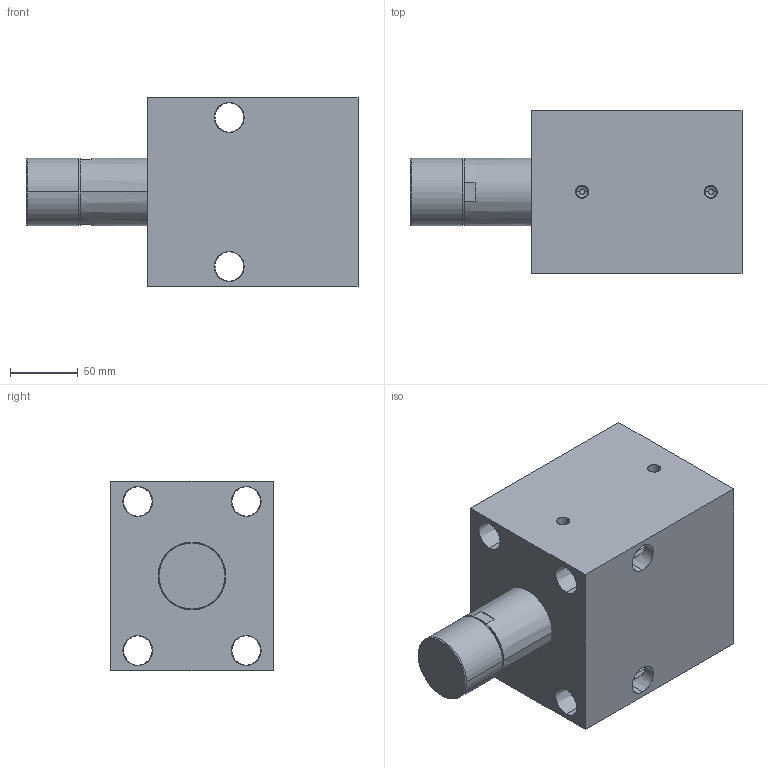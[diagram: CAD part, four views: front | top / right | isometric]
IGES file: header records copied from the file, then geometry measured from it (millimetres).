
Start section: SolidWorks IGES file using analytic representation for surfaces
Global section: file name: C:\Documents and Settings\rajib\Desktop\Rajib\BLOCK CYLINDER HYDRAULIC\0801-0806\IGES 0801-0808\0803.IGS; native system: SolidWorks 2007; preprocessor: SolidWorks 2007; author: rajib; date: 110121.163806; units: millimetre
Bounding box: 245 x 120 x 140 mm (x, y, z)
Surface area: 187173.5 mm2 (no closed solid volume)
Topology: 0 solids, 0 shells, 76 faces, 1936 edges, 1936 vertices
Faces by surface type: revolution 54, bspline 22
